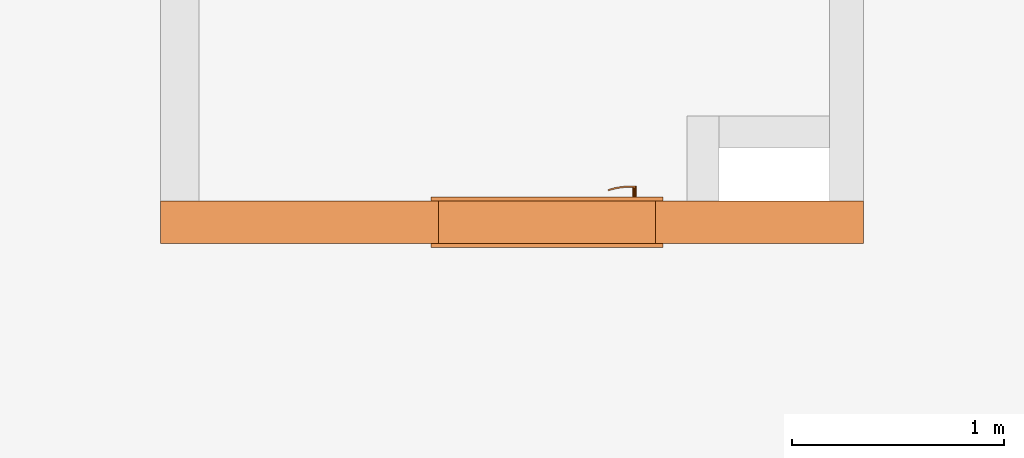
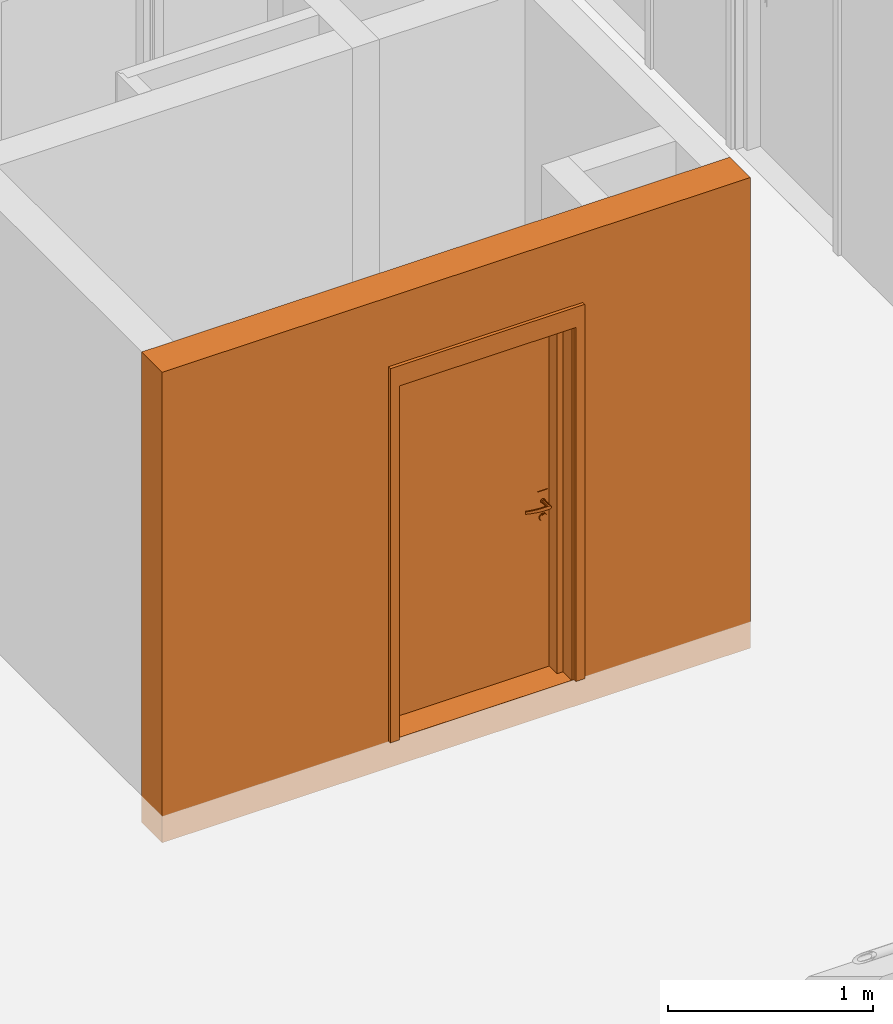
# One storey, part 31 of 64: 2 proxies, 1 opening.
"""IFC2X3 building model written with IfcOpenShell, lengths in millimetres."""

from ifc_helpers import new_model, entity, si_unit, converted_unit, derived_unit, money_unit, direction, frame, origin_with_axes, origin_2d_with_axis, place, context, subcontext, project, spatial, rectangle, extrude, open_shell, faceted_brep, surface_model, source, transform, mapped, material, type_object, element, fill, save


model = new_model("IFC2X3")

# Units and contexts
model_context = context("Model", 3, precision=0.01, world=origin_with_axes(), true_north=direction((0.34421633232, 0.938890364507)))
body_context = subcontext(model_context, "Body", "Model", "MODEL_VIEW")
ifc_project = project(units=[si_unit("LENGTHUNIT", "METRE", prefix="MILLI"), si_unit("AREAUNIT", "SQUARE_METRE"), si_unit("VOLUMEUNIT", "CUBIC_METRE"), converted_unit("PLANEANGLEUNIT", "DEGREE", entity("IfcPlaneAngleMeasure", 0.0174532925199), si_unit("PLANEANGLEUNIT", "RADIAN"), dimensions=[0, 0, 0, 0, 0, 0, 0]), si_unit("SOLIDANGLEUNIT", "STERADIAN"), money_unit("USD"), converted_unit("TIMEUNIT", "Year", entity("IfcTimeMeasure", 31556926.0), si_unit("TIMEUNIT", "SECOND"), dimensions=[0, 0, 1, 0, 0, 0, 0]), si_unit("MASSUNIT", "GRAM", prefix="KILO"), si_unit("THERMODYNAMICTEMPERATUREUNIT", "DEGREE_CELSIUS"), si_unit("LUMINOUSINTENSITYUNIT", "LUMEN"), si_unit("ENERGYUNIT", "JOULE", prefix="MEGA"), derived_unit("THERMALCONDUCTANCEUNIT", [(si_unit("POWERUNIT", "WATT"), 1), (si_unit("LENGTHUNIT", "METRE"), -1), (si_unit("THERMODYNAMICTEMPERATUREUNIT", "KELVIN"), -1)]), derived_unit("SPECIFICHEATCAPACITYUNIT", [(si_unit("ENERGYUNIT", "JOULE"), 1), (si_unit("MASSUNIT", "GRAM", prefix="KILO"), -1), (si_unit("THERMODYNAMICTEMPERATUREUNIT", "KELVIN"), -1)]), derived_unit("MASSDENSITYUNIT", [(si_unit("MASSUNIT", "GRAM", prefix="KILO"), 1), (si_unit("VOLUMEUNIT", "CUBIC_METRE"), -1)])], contexts=[model_context])

# Site, building, storey
site_placement = place(None, origin_with_axes())
site = spatial("IfcSite", under=ifc_project, at=site_placement, Name="USTRONIE MORSKIE", CompositionType="ELEMENT")
building_placement = place(site_placement, origin_with_axes())
building = spatial("IfcBuilding", under=site, at=building_placement, Name="Budynek", CompositionType="ELEMENT")
storey_placement = place(building_placement, frame((0.0, 0.0, 7000.0), z_axis=(0.0, 0.0, 1.0), x_axis=(1.0, 0.0, 0.0)))
storey = spatial("IfcBuildingStorey", under=building, at=storey_placement, Name="PIĘTRO 2", CompositionType="ELEMENT", Elevation=7000.0)

# Proxies, opening
ifc_material = material(Name="Beton konstrukcyjny B25")
building_element_proxy_type_1 = type_object("IfcBuildingElementProxyType", Name="Beton konstrukcyjny B25 200", PredefinedType="NOTDEFINED")
proxy_1_placement = place(storey_placement, frame((416017.920918, 738801.199036, -160.0), z_axis=(0.0, 0.0, 1.0), x_axis=(-1.0, 0.0, 0.0)))
proxy_1 = element("IfcBuildingElementProxy", 1, at=proxy_1_placement, inside=storey, type_object=building_element_proxy_type_1, material=ifc_material, Name="SW-01", context=body_context, shape_type="Brep", body=[
    faceted_brep([(3229.99995481, -100.0, 2800.0), (3229.99995481, 100.0, 2800.0), (-80.0, 100.0, 2800.0), (-80.0, -100.0, 2800.0), (3229.99995481, -100.0, 0.0), (3229.99995481, 100.0, 0.0), (-80.0, 100.0, 0.0), (-80.0, -100.0, 0.0)], [[[0, 1, 2, 3]], [[1, 0, 4, 5]], [[1, 5, 6, 2]], [[7, 3, 2, 6]], [[4, 0, 3, 7]], [[5, 4, 7, 6]]]),
])
opening_placement = place(proxy_1_placement, frame((1410.0, 0.0, 160.0), z_axis=(0.0, 0.0, 1.0), x_axis=(1.0, 0.0, 0.0)))
opening = element("IfcOpeningElement", 2, at=opening_placement, cuts=proxy_1, Name="Dw.2", context=body_context, shape_type="SweptSolid", body=[
    extrude(rectangle(XDim=1020.0, YDim=2120.0, at=origin_2d_with_axis()), frame((0.0, 200.0, 1060.0), z_axis=(0.0, 1.0, 0.0), x_axis=(1.0, 0.0, 0.0)), (0.0, 0.0, -1.0), 600.0),
    extrude(rectangle(XDim=1094.0, YDim=2227.0, at=origin_2d_with_axis()), frame((0.0, 100.0, 1113.5), z_axis=(0.0, 1.0, 0.0), x_axis=(1.0, 0.0, 0.0)), (0.0, 0.0, 1.0), 200.0),
    extrude(rectangle(XDim=1094.0, YDim=2227.0, at=origin_2d_with_axis()), frame((0.0, -100.0, 1113.5), z_axis=(0.0, -1.0, 0.0), x_axis=(1.0, 0.0, 0.0)), (0.0, 0.0, 1.0), 200.0),
])
building_element_proxy_type_2 = type_object("IfcBuildingElementProxyType", Name="Drzwi 23", PredefinedType="NOTDEFINED")
shared_shape = source(origin_with_axes(), body_context, "Body", "SurfaceModel", [
    faceted_brep([(510.0, -115.0, 0.0), (510.0, -200.0, 0.0), (485.0, -200.0, 0.0), (485.0, -115.0, 0.0), (510.0, -115.0, 2120.0), (510.0, -200.0, 2120.0), (485.0, -200.0, 2095.0), (485.0, -115.0, 2095.0)], [[[0, 1, 2, 3]], [[4, 5, 1, 0]], [[1, 5, 6, 2]], [[3, 2, 6, 7]], [[0, 3, 7, 4]], [[7, 6, 5, 4]]]),
    faceted_brep([(-510.0, -115.0, 2120.0), (-510.0, -200.0, 2120.0), (-485.0, -200.0, 2095.0), (-485.0, -115.0, 2095.0), (-510.0, -115.0, 0.0), (-510.0, -200.0, 0.0), (-485.0, -200.0, 0.0), (-485.0, -115.0, 0.0)], [[[0, 1, 2, 3]], [[4, 5, 1, 0]], [[1, 5, 6, 2]], [[3, 2, 6, 7]], [[0, 3, 7, 4]], [[7, 6, 5, 4]]]),
    faceted_brep([(485.0, -115.0, 2095.0), (485.0, -200.0, 2095.0), (-485.0, -200.0, 2095.0), (-485.0, -115.0, 2095.0), (510.0, -115.0, 2120.0), (510.0, -200.0, 2120.0), (-510.0, -200.0, 2120.0), (-510.0, -115.0, 2120.0)], [[[0, 1, 2, 3]], [[4, 5, 1, 0]], [[1, 5, 6, 2]], [[3, 2, 6, 7]], [[0, 3, 7, 4]], [[7, 6, 5, 4]]]),
    faceted_brep([(547.0, -219.0, 0.0), (497.0, -219.0, 0.0), (497.0, -200.0, 0.0), (547.0, -200.0, 0.0), (547.0, -219.0, 2227.0), (497.0, -219.0, 2107.0), (497.0, -200.0, 2107.0), (547.0, -200.0, 2227.0)], [[[0, 1, 2, 3]], [[0, 4, 5, 1]], [[1, 5, 6, 2]], [[3, 2, 6, 7]], [[4, 0, 3, 7]], [[5, 4, 7, 6]]]),
    faceted_brep([(-547.0, -219.0, 2227.0), (-497.0, -219.0, 2107.0), (-497.0, -200.0, 2107.0), (-547.0, -200.0, 2227.0), (-547.0, -219.0, 0.0), (-497.0, -219.0, 0.0), (-497.0, -200.0, 0.0), (-547.0, -200.0, 0.0)], [[[0, 1, 2, 3]], [[0, 4, 5, 1]], [[1, 5, 6, 2]], [[3, 2, 6, 7]], [[4, 0, 3, 7]], [[5, 4, 7, 6]]]),
    faceted_brep([(547.0, -219.0, 2227.0), (497.0, -219.0, 2107.0), (497.0, -200.0, 2107.0), (547.0, -200.0, 2227.0), (-547.0, -219.0, 2227.0), (-497.0, -219.0, 2107.0), (-497.0, -200.0, 2107.0), (-547.0, -200.0, 2227.0)], [[[0, 1, 2, 3]], [[0, 4, 5, 1]], [[1, 5, 6, 2]], [[3, 2, 6, 7]], [[4, 0, 3, 7]], [[5, 4, 7, 6]]]),
    faceted_brep([(547.0, 19.0, 0.0), (547.0, 0.0, 0.0), (497.0, 0.0, 0.0), (497.0, 19.0, 0.0), (547.0, 19.0, 2227.0), (547.0, 0.0, 2227.0), (497.0, 0.0, 2107.0), (497.0, 19.0, 2107.0)], [[[0, 1, 2, 3]], [[4, 5, 1, 0]], [[1, 5, 6, 2]], [[3, 2, 6, 7]], [[0, 3, 7, 4]], [[7, 6, 5, 4]]]),
    faceted_brep([(-547.0, 19.0, 2227.0), (-547.0, 0.0, 2227.0), (-497.0, 0.0, 2107.0), (-497.0, 19.0, 2107.0), (-547.0, 19.0, 0.0), (-547.0, 0.0, 0.0), (-497.0, 0.0, 0.0), (-497.0, 19.0, 0.0)], [[[0, 1, 2, 3]], [[4, 5, 1, 0]], [[1, 5, 6, 2]], [[3, 2, 6, 7]], [[0, 3, 7, 4]], [[7, 6, 5, 4]]]),
    faceted_brep([(547.0, 19.0, 2227.0), (547.0, 0.0, 2227.0), (497.0, 0.0, 2107.0), (497.0, 19.0, 2107.0), (-547.0, 19.0, 2227.0), (-547.0, 0.0, 2227.0), (-497.0, 0.0, 2107.0), (-497.0, 19.0, 2107.0)], [[[0, 1, 2, 3]], [[4, 5, 1, 0]], [[1, 5, 6, 2]], [[3, 2, 6, 7]], [[0, 3, 7, 4]], [[7, 6, 5, 4]]]),
    faceted_brep([(450.0, -40.0, 0.0), (450.0, -115.0, 0.0), (450.0, -115.0, 2050.0), (450.0, -40.0, 2050.0), (462.0, -40.0, 0.0), (462.0, 0.0, 0.0), (510.0, 0.0, 0.0), (510.0, -115.0, 0.0), (510.0, -115.0, 2050.0), (462.0, -40.0, 2050.0), (510.0, 0.0, 2050.0), (462.0, 0.0, 2050.0)], [[[0, 1, 2, 3]], [[4, 5, 6, 7, 1, 0]], [[1, 7, 8, 2]], [[9, 3, 2, 8, 10, 11]], [[9, 4, 0, 3]], [[11, 5, 4, 9]], [[11, 10, 6, 5]], [[6, 10, 8, 7]]]),
    faceted_brep([(-462.0, -40.0, 2050.0), (-462.0, 0.0, 2050.0), (-510.0, 0.0, 2050.0), (-510.0, -115.0, 2050.0), (-450.0, -115.0, 2050.0), (-450.0, -40.0, 2050.0), (-462.0, -40.0, 0.0), (-462.0, 0.0, 0.0), (-510.0, 0.0, 0.0), (-510.0, -115.0, 0.0), (-450.0, -115.0, 0.0), (-450.0, -40.0, 0.0)], [[[0, 1, 2, 3, 4, 5]], [[0, 6, 7, 1]], [[7, 8, 2, 1]], [[2, 8, 9, 3]], [[3, 9, 10, 4]], [[5, 4, 10, 11]], [[5, 11, 6, 0]], [[6, 11, 10, 9, 8, 7]]]),
    faceted_brep([(462.0, 0.0, 2062.0), (-462.0, 0.0, 2062.0), (-462.0, 0.0, 2050.0), (-510.0, 0.0, 2050.0), (-510.0, 0.0, 2120.0), (510.0, 0.0, 2120.0), (510.0, 0.0, 2050.0), (462.0, 0.0, 2050.0), (462.0, -40.0, 2062.0), (-462.0, -40.0, 2062.0), (-462.0, -40.0, 2050.0), (-450.0, -40.0, 2050.0), (-450.0, -115.0, 2050.0), (-510.0, -115.0, 2050.0), (-510.0, -115.0, 2120.0), (510.0, -115.0, 2120.0), (510.0, -115.0, 2050.0), (462.0, -40.0, 2050.0), (450.0, -115.0, 2050.0), (450.0, -40.0, 2050.0)], [[[0, 1, 2, 3, 4, 5, 6, 7]], [[0, 8, 9, 1]], [[1, 9, 10, 2]], [[10, 11, 12, 13, 3, 2]], [[4, 3, 13, 14]], [[5, 4, 14, 15]], [[6, 5, 15, 16]], [[17, 7, 6, 16, 18, 19]], [[7, 17, 8, 0]], [[10, 9, 8, 17, 19, 11]], [[19, 18, 12, 11]], [[12, 18, 16, 15, 14, 13]]]),
    faceted_brep([(440.5, -40.0, 1060.0), (383.5, -40.0, 1060.0), (383.5, -43.0, 1060.0), (440.5, -43.0, 1060.0), (440.5, -40.0, 870.0), (383.5, -40.0, 870.0), (383.5, -43.0, 870.0), (440.5, -43.0, 870.0)], [[[0, 1, 2, 3]], [[0, 4, 5, 1]], [[1, 5, 6, 2]], [[3, 2, 6, 7]], [[4, 0, 3, 7]], [[5, 4, 7, 6]]]),
    faceted_brep([(412.0, -104.0, 990.0), (417.0, -104.0, 991.339745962), (417.0, -111.0, 991.339745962), (412.0, -111.0, 990.0), (387.0, -104.0, 990.0), (387.0, -104.0, 1010.0), (412.0, -104.0, 1010.0), (417.0, -104.0, 1008.66025404), (420.660254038, -104.0, 1005.0), (422.0, -104.0, 1000.0), (420.660254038, -104.0, 995.0), (420.660254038, -111.0, 995.0), (422.0, -111.0, 1000.0), (420.660254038, -111.0, 1005.0), (417.0, -111.0, 1008.66025404), (412.0, -111.0, 1010.0), (387.0, -111.0, 1010.0), (387.0, -111.0, 990.0)], [[[0, 1, 2, 3]], [[0, 4, 5, 6, 7, 8, 9, 10, 1]], [[1, 10, 11, 2]], [[3, 2, 11, 12, 13, 14, 15, 16, 17]], [[4, 0, 3, 17]], [[5, 4, 17, 16]], [[6, 5, 16, 15]], [[7, 6, 15, 14]], [[8, 7, 14, 13]], [[9, 8, 13, 12]], [[10, 9, 12, 11]]]),
    surface_model("IfcShellBasedSurfaceModel", [(387.0, -104.0, 1010.0), (373.901717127, -104.0, 1009.60730092), (373.596090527, -111.0, 1009.60730092), (387.0, -104.0, 990.0), (373.901717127, -104.0, 990.392699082), (346.890283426, -108.663544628, 1008.82190275), (387.0, -111.0, 1010.0), (387.0, -111.0, 990.0), (347.804837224, -101.716818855, 991.178097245), (347.804837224, -101.716818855, 1008.82190275), (346.890283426, -108.663544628, 991.178097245), (373.596090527, -111.0, 990.392699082), (322.006256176, -97.1678329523, 991.963495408), (322.006256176, -97.1678329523, 1008.03650459), (320.489735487, -104.008415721, 1008.03650459), (320.489735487, -104.008415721, 991.963495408), (296.702316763, -90.3876628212, 992.748893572), (296.702316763, -90.3876628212, 1007.25110643), (294.59537082, -97.0700416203, 1007.25110643), (294.59537082, -97.0700416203, 992.748893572), (288.829442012, -87.5221707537, 993.0), (288.829442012, -87.5221707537, 1007.0), (286.538795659, -94.1376880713, 1007.0), (286.538795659, -94.1376880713, 993.0)], [open_shell([[[0, 1, 2]], [[0, 3, 4, 1]], [[1, 5, 2]], [[0, 2, 6]], [[4, 3, 7]], [[1, 4, 8, 9]], [[1, 9, 5]], [[2, 5, 10, 11]], [[6, 2, 11, 7]], [[4, 7, 11]], [[8, 4, 11]], [[9, 8, 12, 13]], [[9, 14, 5]], [[5, 14, 15, 10]], [[8, 11, 10]], [[12, 8, 10]], [[13, 12, 16, 17]], [[9, 13, 14]], [[14, 18, 19, 15]], [[12, 10, 15]], [[16, 12, 15]], [[17, 16, 20, 21]], [[13, 17, 18]], [[13, 18, 14]], [[18, 22, 23, 19]], [[16, 15, 19]], [[20, 16, 19]], [[21, 20, 23, 22]], [[17, 21, 22]], [[17, 22, 18]], [[20, 19, 23]]])]),
    faceted_brep([(401.607695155, -53.0, 994.0), (400.0, -53.0, 1000.0), (399.0, -43.0, 1000.0), (400.741669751, -43.0, 993.5), (406.0, -53.0, 989.607695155), (412.0, -53.0, 988.0), (418.0, -53.0, 989.607695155), (422.392304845, -53.0, 994.0), (424.0, -53.0, 1000.0), (422.392304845, -53.0, 1006.0), (418.0, -53.0, 1010.39230485), (412.0, -53.0, 1012.0), (406.0, -53.0, 1010.39230485), (401.607695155, -53.0, 1006.0), (400.741669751, -43.0, 1006.5), (405.5, -43.0, 1011.25833025), (412.0, -43.0, 1013.0), (418.5, -43.0, 1011.25833025), (423.258330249, -43.0, 1006.5), (425.0, -43.0, 1000.0), (423.258330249, -43.0, 993.5), (418.5, -43.0, 988.741669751), (412.0, -43.0, 987.0), (405.5, -43.0, 988.741669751)], [[[0, 1, 2, 3]], [[1, 0, 4, 5, 6, 7, 8, 9, 10, 11, 12, 13]], [[1, 13, 14, 2]], [[2, 14, 15, 16, 17, 18, 19, 20, 21, 22, 23, 3]], [[4, 0, 3, 23]], [[5, 4, 23, 22]], [[6, 5, 22, 21]], [[7, 6, 21, 20]], [[8, 7, 20, 19]], [[9, 8, 19, 18]], [[10, 9, 18, 17]], [[11, 10, 17, 16]], [[12, 11, 16, 15]], [[13, 12, 15, 14]]]),
    faceted_brep([(394.679491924, -47.0, 895.0), (392.0, -47.0, 905.0), (390.0, -43.0, 905.0), (392.947441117, -43.0, 894.0), (402.0, -47.0, 887.679491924), (412.0, -47.0, 885.0), (422.0, -47.0, 887.679491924), (429.320508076, -47.0, 895.0), (432.0, -47.0, 905.0), (429.320508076, -47.0, 915.0), (422.0, -47.0, 922.320508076), (412.0, -47.0, 925.0), (402.0, -47.0, 922.320508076), (394.679491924, -47.0, 915.0), (392.947441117, -43.0, 916.0), (401.0, -43.0, 924.052558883), (412.0, -43.0, 927.0), (423.0, -43.0, 924.052558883), (431.052558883, -43.0, 916.0), (434.0, -43.0, 905.0), (431.052558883, -43.0, 894.0), (423.0, -43.0, 885.947441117), (412.0, -43.0, 883.0), (401.0, -43.0, 885.947441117)], [[[0, 1, 2, 3]], [[1, 0, 4, 5, 6, 7, 8, 9, 10, 11, 12, 13]], [[1, 13, 14, 2]], [[2, 14, 15, 16, 17, 18, 19, 20, 21, 22, 23, 3]], [[4, 0, 3, 23]], [[5, 4, 23, 22]], [[6, 5, 22, 21]], [[7, 6, 21, 20]], [[8, 7, 20, 19]], [[9, 8, 19, 18]], [[10, 9, 18, 17]], [[11, 10, 17, 16]], [[12, 11, 16, 15]], [[13, 12, 15, 14]]]),
    faceted_brep([(407.050252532, -49.0, 909.050252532), (405.0, -49.0, 914.0), (404.0, -47.0, 914.0), (406.343145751, -47.0, 908.343145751), (412.0, -49.0, 907.0), (416.949747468, -49.0, 909.050252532), (419.0, -49.0, 914.0), (416.949747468, -49.0, 918.949747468), (412.0, -49.0, 921.0), (407.050252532, -49.0, 918.949747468), (406.343145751, -47.0, 919.656854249), (412.0, -47.0, 922.0), (417.656854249, -47.0, 919.656854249), (420.0, -47.0, 914.0), (417.656854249, -47.0, 908.343145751), (412.0, -47.0, 906.0)], [[[0, 1, 2, 3]], [[1, 0, 4, 5, 6, 7, 8, 9]], [[1, 9, 10, 2]], [[2, 10, 11, 12, 13, 14, 15, 3]], [[4, 0, 3, 15]], [[5, 4, 15, 14]], [[6, 5, 14, 13]], [[7, 6, 13, 12]], [[8, 7, 12, 11]], [[9, 8, 11, 10]]]),
    faceted_brep([(412.0, -53.0, 1010.0), (407.0, -53.0, 1008.66025404), (407.0, -104.0, 1008.66025404), (412.0, -104.0, 1010.0), (417.0, -53.0, 1008.66025404), (420.660254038, -53.0, 1005.0), (422.0, -53.0, 1000.0), (420.660254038, -53.0, 995.0), (417.0, -53.0, 991.339745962), (412.0, -53.0, 990.0), (407.0, -53.0, 991.339745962), (403.339745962, -53.0, 995.0), (402.0, -53.0, 1000.0), (403.339745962, -53.0, 1005.0), (403.339745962, -104.0, 1005.0), (402.0, -104.0, 1000.0), (403.339745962, -104.0, 995.0), (407.0, -104.0, 991.339745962), (412.0, -104.0, 990.0), (417.0, -104.0, 991.339745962), (420.660254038, -104.0, 995.0), (422.0, -104.0, 1000.0), (420.660254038, -104.0, 1005.0), (417.0, -104.0, 1008.66025404)], [[[0, 1, 2, 3]], [[0, 4, 5, 6, 7, 8, 9, 10, 11, 12, 13, 1]], [[1, 13, 14, 2]], [[3, 2, 14, 15, 16, 17, 18, 19, 20, 21, 22, 23]], [[4, 0, 3, 23]], [[5, 4, 23, 22]], [[6, 5, 22, 21]], [[7, 6, 21, 20]], [[8, 7, 20, 19]], [[9, 8, 19, 18]], [[10, 9, 18, 17]], [[11, 10, 17, 16]], [[12, 11, 16, 15]], [[13, 12, 15, 14]]]),
    faceted_brep([(440.5, 0.0, 1060.0), (440.5, 3.0, 1060.0), (383.5, 3.0, 1060.0), (383.5, 0.0, 1060.0), (440.5, 0.0, 870.0), (440.5, 3.0, 870.0), (383.5, 3.0, 870.0), (383.5, 0.0, 870.0)], [[[0, 1, 2, 3]], [[4, 5, 1, 0]], [[1, 5, 6, 2]], [[3, 2, 6, 7]], [[0, 3, 7, 4]], [[7, 6, 5, 4]]]),
    faceted_brep([(412.0, 64.0, 990.0), (412.0, 71.0, 990.0), (417.0, 71.0, 991.339745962), (417.0, 64.0, 991.339745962), (387.0, 64.0, 990.0), (387.0, 71.0, 990.0), (387.0, 71.0, 1010.0), (412.0, 71.0, 1010.0), (417.0, 71.0, 1008.66025404), (420.660254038, 71.0, 1005.0), (422.0, 71.0, 1000.0), (420.660254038, 71.0, 995.0), (420.660254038, 64.0, 995.0), (422.0, 64.0, 1000.0), (420.660254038, 64.0, 1005.0), (417.0, 64.0, 1008.66025404), (412.0, 64.0, 1010.0), (387.0, 64.0, 1010.0)], [[[0, 1, 2, 3]], [[4, 5, 1, 0]], [[1, 5, 6, 7, 8, 9, 10, 11, 2]], [[3, 2, 11, 12]], [[0, 3, 12, 13, 14, 15, 16, 17, 4]], [[17, 6, 5, 4]], [[16, 7, 6, 17]], [[15, 8, 7, 16]], [[14, 9, 8, 15]], [[13, 10, 9, 14]], [[12, 11, 10, 13]]]),
    surface_model("IfcShellBasedSurfaceModel", [(387.0, 64.0, 1010.0), (373.596090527, 71.0, 1009.60730092), (373.901717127, 64.0, 1009.60730092), (387.0, 71.0, 1010.0), (346.890283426, 68.6635446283, 1008.82190275), (373.901717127, 64.0, 990.392699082), (387.0, 64.0, 990.0), (387.0, 71.0, 990.0), (373.596090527, 71.0, 990.392699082), (346.890283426, 68.6635446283, 991.178097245), (347.804837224, 61.716818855, 1008.82190275), (347.804837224, 61.716818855, 991.178097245), (320.489735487, 64.0084157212, 991.963495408), (320.489735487, 64.0084157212, 1008.03650459), (322.006256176, 57.1678329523, 1008.03650459), (322.006256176, 57.1678329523, 991.963495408), (294.59537082, 57.0700416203, 992.748893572), (294.59537082, 57.0700416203, 1007.25110643), (296.702316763, 50.3876628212, 1007.25110643), (296.702316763, 50.3876628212, 992.748893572), (286.538795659, 54.1376880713, 993.0), (286.538795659, 54.1376880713, 1007.0), (288.829442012, 47.5221707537, 1007.0), (288.829442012, 47.5221707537, 993.0)], [open_shell([[[0, 1, 2]], [[0, 3, 1]], [[2, 1, 4]], [[0, 2, 5, 6]], [[3, 7, 8, 1]], [[1, 8, 9, 4]], [[2, 4, 10]], [[2, 10, 11, 5]], [[5, 7, 6]], [[5, 8, 7]], [[11, 9, 8]], [[4, 9, 12, 13]], [[10, 4, 13]], [[10, 14, 15, 11]], [[11, 8, 5]], [[15, 9, 11]], [[15, 12, 9]], [[13, 12, 16, 17]], [[10, 13, 14]], [[14, 18, 19, 15]], [[19, 12, 15]], [[19, 16, 12]], [[17, 16, 20, 21]], [[14, 13, 17]], [[14, 17, 18]], [[18, 22, 23, 19]], [[23, 16, 19]], [[23, 20, 16]], [[22, 21, 20, 23]], [[18, 17, 21]], [[18, 21, 22]]])]),
    faceted_brep([(401.607695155, 13.0, 994.0), (400.741669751, 3.0, 993.5), (399.0, 3.0, 1000.0), (400.0, 13.0, 1000.0), (406.0, 13.0, 989.607695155), (405.5, 3.0, 988.741669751), (412.0, 3.0, 987.0), (418.5, 3.0, 988.741669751), (423.258330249, 3.0, 993.5), (425.0, 3.0, 1000.0), (423.258330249, 3.0, 1006.5), (418.5, 3.0, 1011.25833025), (412.0, 3.0, 1013.0), (405.5, 3.0, 1011.25833025), (400.741669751, 3.0, 1006.5), (401.607695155, 13.0, 1006.0), (406.0, 13.0, 1010.39230485), (412.0, 13.0, 1012.0), (418.0, 13.0, 1010.39230485), (422.392304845, 13.0, 1006.0), (424.0, 13.0, 1000.0), (422.392304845, 13.0, 994.0), (418.0, 13.0, 989.607695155), (412.0, 13.0, 988.0)], [[[0, 1, 2, 3]], [[4, 5, 1, 0]], [[2, 1, 5, 6, 7, 8, 9, 10, 11, 12, 13, 14]], [[3, 2, 14, 15]], [[3, 15, 16, 17, 18, 19, 20, 21, 22, 23, 4, 0]], [[23, 6, 5, 4]], [[22, 7, 6, 23]], [[21, 8, 7, 22]], [[20, 9, 8, 21]], [[19, 10, 9, 20]], [[18, 11, 10, 19]], [[17, 12, 11, 18]], [[16, 13, 12, 17]], [[15, 14, 13, 16]]]),
    faceted_brep([(394.679491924, 7.0, 895.0), (392.947441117, 3.0, 894.0), (390.0, 3.0, 905.0), (392.0, 7.0, 905.0), (402.0, 7.0, 887.679491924), (401.0, 3.0, 885.947441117), (412.0, 3.0, 883.0), (423.0, 3.0, 885.947441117), (431.052558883, 3.0, 894.0), (434.0, 3.0, 905.0), (431.052558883, 3.0, 916.0), (423.0, 3.0, 924.052558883), (412.0, 3.0, 927.0), (401.0, 3.0, 924.052558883), (392.947441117, 3.0, 916.0), (394.679491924, 7.0, 915.0), (402.0, 7.0, 922.320508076), (412.0, 7.0, 925.0), (422.0, 7.0, 922.320508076), (429.320508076, 7.0, 915.0), (432.0, 7.0, 905.0), (429.320508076, 7.0, 895.0), (422.0, 7.0, 887.679491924), (412.0, 7.0, 885.0)], [[[0, 1, 2, 3]], [[4, 5, 1, 0]], [[2, 1, 5, 6, 7, 8, 9, 10, 11, 12, 13, 14]], [[3, 2, 14, 15]], [[3, 15, 16, 17, 18, 19, 20, 21, 22, 23, 4, 0]], [[23, 6, 5, 4]], [[22, 7, 6, 23]], [[21, 8, 7, 22]], [[20, 9, 8, 21]], [[19, 10, 9, 20]], [[18, 11, 10, 19]], [[17, 12, 11, 18]], [[16, 13, 12, 17]], [[15, 14, 13, 16]]]),
    faceted_brep([(407.050252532, 9.0, 909.050252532), (406.343145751, 7.0, 908.343145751), (404.0, 7.0, 914.0), (405.0, 9.0, 914.0), (412.0, 9.0, 907.0), (412.0, 7.0, 906.0), (417.656854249, 7.0, 908.343145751), (420.0, 7.0, 914.0), (417.656854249, 7.0, 919.656854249), (412.0, 7.0, 922.0), (406.343145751, 7.0, 919.656854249), (407.050252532, 9.0, 918.949747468), (412.0, 9.0, 921.0), (416.949747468, 9.0, 918.949747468), (419.0, 9.0, 914.0), (416.949747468, 9.0, 909.050252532)], [[[0, 1, 2, 3]], [[4, 5, 1, 0]], [[2, 1, 5, 6, 7, 8, 9, 10]], [[3, 2, 10, 11]], [[3, 11, 12, 13, 14, 15, 4, 0]], [[15, 6, 5, 4]], [[14, 7, 6, 15]], [[13, 8, 7, 14]], [[12, 9, 8, 13]], [[11, 10, 9, 12]]]),
    faceted_brep([(412.0, 13.0, 1010.0), (412.0, 64.0, 1010.0), (407.0, 64.0, 1008.66025404), (407.0, 13.0, 1008.66025404), (417.0, 13.0, 1008.66025404), (417.0, 64.0, 1008.66025404), (420.660254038, 64.0, 1005.0), (422.0, 64.0, 1000.0), (420.660254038, 64.0, 995.0), (417.0, 64.0, 991.339745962), (412.0, 64.0, 990.0), (407.0, 64.0, 991.339745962), (403.339745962, 64.0, 995.0), (402.0, 64.0, 1000.0), (403.339745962, 64.0, 1005.0), (403.339745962, 13.0, 1005.0), (402.0, 13.0, 1000.0), (403.339745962, 13.0, 995.0), (407.0, 13.0, 991.339745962), (412.0, 13.0, 990.0), (417.0, 13.0, 991.339745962), (420.660254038, 13.0, 995.0), (422.0, 13.0, 1000.0), (420.660254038, 13.0, 1005.0)], [[[0, 1, 2, 3]], [[4, 5, 1, 0]], [[1, 5, 6, 7, 8, 9, 10, 11, 12, 13, 14, 2]], [[3, 2, 14, 15]], [[0, 3, 15, 16, 17, 18, 19, 20, 21, 22, 23, 4]], [[23, 6, 5, 4]], [[22, 7, 6, 23]], [[21, 8, 7, 22]], [[20, 9, 8, 21]], [[19, 10, 9, 20]], [[18, 11, 10, 19]], [[17, 12, 11, 18]], [[16, 13, 12, 17]], [[15, 14, 13, 16]]]),
    faceted_brep([(-462.0, 0.0, 0.0), (462.0, 0.0, 0.0), (462.0, -40.0, 0.0), (-462.0, -40.0, 0.0), (-462.0, 0.0, 2062.0), (462.0, 0.0, 2062.0), (462.0, -40.0, 2062.0), (-462.0, -40.0, 2062.0)], [[[0, 1, 2, 3]], [[0, 4, 5, 1]], [[1, 5, 6, 2]], [[3, 2, 6, 7]], [[4, 0, 3, 7]], [[5, 4, 7, 6]]]),
])
proxy_2_placement = place(opening_placement, frame((450.0, 0.0, 0.0), z_axis=(0.0, 0.0, 1.0), x_axis=(-1.0, 0.0, 0.0)))
proxy_2 = element("IfcBuildingElementProxy", 3, at=proxy_2_placement, inside=storey, type_object=building_element_proxy_type_2, Name="Dw.2", context=body_context, shape_type="MappedRepresentation", body=[
    mapped(shared_shape, transform((450.0, 100.0, 0.0))),
])
fill(opening, proxy_2)

save(model, "model.ifc")
